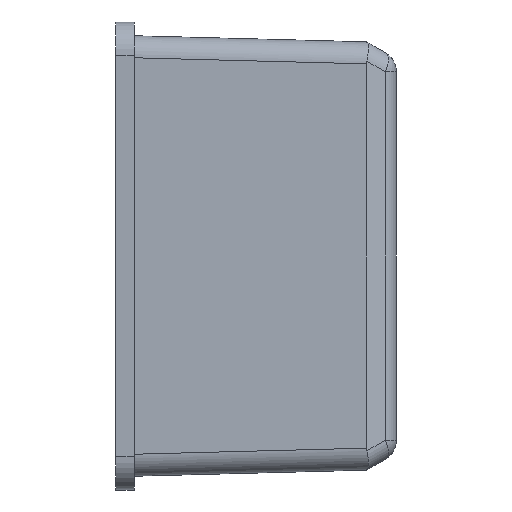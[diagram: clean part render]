
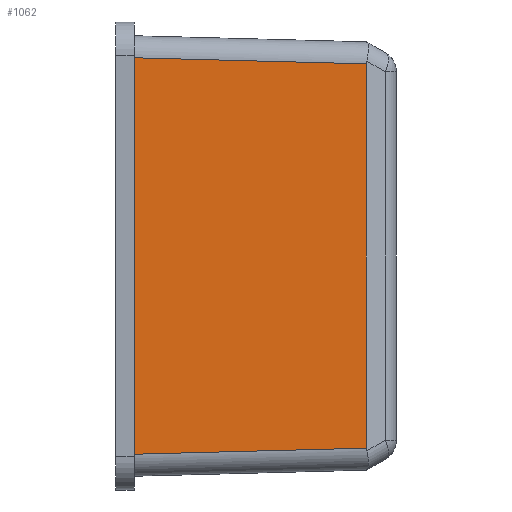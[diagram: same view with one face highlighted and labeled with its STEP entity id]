
A CAD part, left-side view. The second image highlights one B-rep face of the part: STEP entity #1062.
In plain terms, the highlighted planar face has unit normal (-1, -0.026, 0).
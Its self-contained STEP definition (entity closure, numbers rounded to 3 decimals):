
#67 = DIRECTION ( 'NONE',  ( 0.026, -1., 0. ) ) ;
#71 = DIRECTION ( 'NONE',  ( -1., -0.026, 0. ) ) ;
#89 = CARTESIAN_POINT ( 'NONE',  ( -28., 0., -20. ) ) ;
#131 = PLANE ( 'NONE',  #1422 ) ;
#282 = FACE_OUTER_BOUND ( 'NONE', #461, .T. ) ;
#315 = ORIENTED_EDGE ( 'NONE', *, *, #905, .T. ) ;
#330 = CARTESIAN_POINT ( 'NONE',  ( -27.448, -21.078, 17.449 ) ) ;
#344 = ORIENTED_EDGE ( 'NONE', *, *, #2382, .T. ) ;
#461 = EDGE_LOOP ( 'NONE', ( #315, #344, #485, #515 ) ) ;
#485 = ORIENTED_EDGE ( 'NONE', *, *, #2422, .F. ) ;
#505 = VECTOR ( 'NONE', #1436, 1000. ) ;
#515 = ORIENTED_EDGE ( 'NONE', *, *, #1516, .T. ) ;
#665 = VECTOR ( 'NONE', #709, 1000. ) ;
#709 = DIRECTION ( 'NONE',  ( 0., 0., 1. ) ) ;
#712 = CARTESIAN_POINT ( 'NONE',  ( -27.448, -21.078, 19.377 ) ) ;
#863 = CARTESIAN_POINT ( 'NONE',  ( -28., 0., -18.001 ) ) ;
#905 = EDGE_CURVE ( 'NONE', #1201, #1630, #1269, .T. ) ;
#970 = VECTOR ( 'NONE', #1570, 1000. ) ;
#1036 = LINE ( 'NONE', #1599, #970 ) ;
#1062 = ADVANCED_FACE ( 'NONE', ( #282 ), #131, .T. ) ;
#1104 = CARTESIAN_POINT ( 'NONE',  ( -27.448, -21.078, -17.449 ) ) ;
#1133 = LINE ( 'NONE', #1327, #2131 ) ;
#1201 = VERTEX_POINT ( 'NONE', #1104 ) ;
#1269 = LINE ( 'NONE', #712, #665 ) ;
#1289 = DIRECTION ( 'NONE',  ( -0.026, 0.999, 0.026 ) ) ;
#1301 = CARTESIAN_POINT ( 'NONE',  ( -28., 0., -20. ) ) ;
#1327 = CARTESIAN_POINT ( 'NONE',  ( -27.974, -0.994, 17.975 ) ) ;
#1422 = AXIS2_PLACEMENT_3D ( 'NONE', #89, #71, #67 ) ;
#1436 = DIRECTION ( 'NONE',  ( 0., 0., 1. ) ) ;
#1503 = CARTESIAN_POINT ( 'NONE',  ( -28., 0., 18.001 ) ) ;
#1516 = EDGE_CURVE ( 'NONE', #1874, #1201, #1036, .T. ) ;
#1570 = DIRECTION ( 'NONE',  ( 0.026, -0.999, 0.026 ) ) ;
#1593 = LINE ( 'NONE', #1301, #505 ) ;
#1599 = CARTESIAN_POINT ( 'NONE',  ( -28.001, 0.052, -18.002 ) ) ;
#1630 = VERTEX_POINT ( 'NONE', #330 ) ;
#1874 = VERTEX_POINT ( 'NONE', #863 ) ;
#2131 = VECTOR ( 'NONE', #1289, 1000. ) ;
#2352 = VERTEX_POINT ( 'NONE', #1503 ) ;
#2382 = EDGE_CURVE ( 'NONE', #1630, #2352, #1133, .T. ) ;
#2422 = EDGE_CURVE ( 'NONE', #1874, #2352, #1593, .T. ) ;
